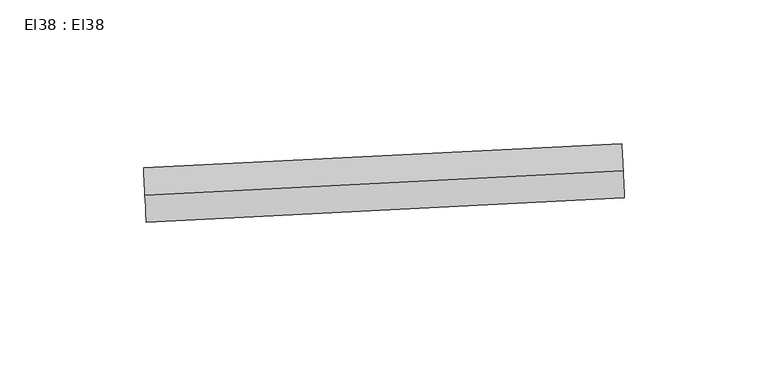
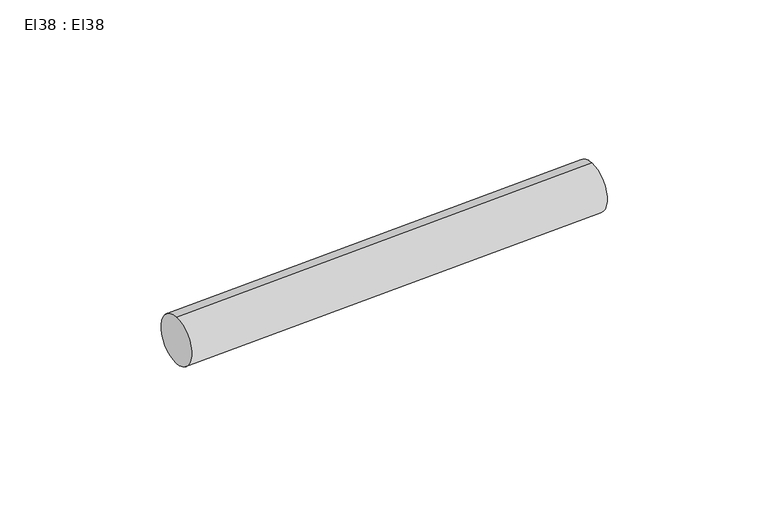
"""IFC4 building model written with IfcOpenShell, lengths in millimetres: cable carrier segment geometry, El38 : El38."""

import ifcopenshell
import ifcopenshell.guid

model = None  # the IFC model being written
_history = None  # IfcOwnerHistory: only IFC2X3 demands one
_inside = {}  # id of a spatial element -> (the spatial element, [elements in it])
_under = {}  # id of a project, library or spatial element -> (it, [spatial elements below it])
_declared = {}  # id of a project -> (the project, [libraries it declares])
_typed = {}  # id of a type object -> (the type object, [elements of that type])
_made_of = {}  # id of a material, layer set ... -> (it, [elements and type objects made of it])


def new_model(schema):
    """Start an empty IFC model of exactly this schema.

    Asked for "IFC4X3", IfcOpenShell would pick the latest addendum, in which some entities
    have other attributes; the version numbers below select the first issue.
    IFC2X3 requires an IfcOwnerHistory on every rooted entity: one is made here for all.
    """
    global model, _history
    if schema == "IFC4X3":
        model = ifcopenshell.file(schema_version=(4, 3, 0, 0))
    else:
        model = ifcopenshell.file(schema=schema)
    _inside.clear()
    _under.clear()
    _declared.clear()
    _typed.clear()
    _made_of.clear()
    _history = None
    if model.schema == "IFC2X3":
        org = make("IfcOrganization", Name="unknown")
        user = make(
            "IfcPersonAndOrganization",
            ThePerson=make("IfcPerson", FamilyName="unknown"),
            TheOrganization=org,
        )
        app = make(
            "IfcApplication",
            ApplicationDeveloper=org,
            Version="unknown",
            ApplicationFullName="unknown",
            ApplicationIdentifier="unknown",
        )
        _history = make(
            "IfcOwnerHistory",
            OwningUser=user,
            OwningApplication=app,
            ChangeAction="ADDED",
            CreationDate=0,
        )
    return model


def make(cls, **values):
    """One entity of the class cls with the attributes given. An attribute that is None is left unset."""
    return model.create_entity(
        cls, **{name: value for name, value in values.items() if value is not None}
    )


def rooted(cls, **values):
    """An entity with a GlobalId (a new one), such as an element, a storey or a relation."""
    return make(cls, GlobalId=ifcopenshell.guid.new(), OwnerHistory=_history, **values)


def si_unit(unit_type, name, prefix=None):
    """IfcSIUnit, for example si_unit("LENGTHUNIT", "METRE", prefix="MILLI")."""
    return make("IfcSIUnit", UnitType=unit_type, Prefix=prefix, Name=name)


def assignment(units):
    """IfcUnitAssignment: the units of a project."""
    return None if units is None else make("IfcUnitAssignment", Units=units)


def point(xyz):
    """IfcCartesianPoint."""
    return None if xyz is None else make("IfcCartesianPoint", Coordinates=xyz)


def direction(xyz):
    """IfcDirection."""
    return None if xyz is None else make("IfcDirection", DirectionRatios=xyz)


def frame(location, z_axis=None, x_axis=None):
    """IfcAxis2Placement3D, a coordinate frame: its origin and axes. An axis left out is left unset."""
    return make(
        "IfcAxis2Placement3D",
        Location=point(location),
        Axis=direction(z_axis),
        RefDirection=direction(x_axis),
    )


def frame_2d(location, x_axis=None):
    """IfcAxis2Placement2D, a coordinate frame in the plane: its origin and x axis."""
    return make(
        "IfcAxis2Placement2D", Location=point(location), RefDirection=direction(x_axis)
    )


def origin():
    """The frame at (0, 0, 0) with its axes left unset."""
    return frame((0.0, 0.0, 0.0))


def place(relative_to, where):
    """IfcLocalPlacement: puts the frame where relative to a parent placement (None: the world)."""
    return make(
        "IfcLocalPlacement", PlacementRelTo=relative_to, RelativePlacement=where
    )


def context(
    kind, dimensions, precision=None, world=None, true_north=None, identifier=None
):
    """IfcGeometricRepresentationContext, for example the 3D "Model" context."""
    return make(
        "IfcGeometricRepresentationContext",
        ContextIdentifier=identifier,
        ContextType=kind,
        CoordinateSpaceDimension=dimensions,
        Precision=precision,
        WorldCoordinateSystem=world,
        TrueNorth=true_north,
    )


def project(units=None, contexts=None):
    """IfcProject with its units and contexts."""
    return rooted(
        "IfcProject",
        Name="project",
        RepresentationContexts=contexts,
        UnitsInContext=assignment(units),
    )


def spatial(cls, under=None, at=None, **own):
    """A site, building, storey or space (cls), placed at a placement, below another one or the project."""
    s = rooted(cls, ObjectPlacement=at, **own)
    if under is not None:
        _under.setdefault(under.id(), (under, []))[1].append(s)
    return s


def circle_curve(where, radius):
    """IfcCircle in the frame where."""
    return make("IfcCircle", Position=where, Radius=radius)


def trimmed(basis, trim1, trim2, sense, master):
    """IfcTrimmedCurve: the piece of a basis curve between two trims."""
    return make(
        "IfcTrimmedCurve",
        BasisCurve=basis,
        Trim1=trim1,
        Trim2=trim2,
        SenseAgreement=sense,
        MasterRepresentation=master,
    )


def segment(curve, same_sense, transition):
    """IfcCompositeCurveSegment."""
    return make(
        "IfcCompositeCurveSegment",
        Transition=transition,
        SameSense=same_sense,
        ParentCurve=curve,
    )


def composite_curve(segments, self_intersect=None):
    """IfcCompositeCurve: segments joined end to end."""
    return make("IfcCompositeCurve", Segments=segments, SelfIntersect=self_intersect)


def outline(outer, holes=None, kind="AREA"):
    """IfcArbitraryClosedProfileDef: a profile drawn as a closed curve; with holes, ...WithVoids."""
    if holes is None:
        return make("IfcArbitraryClosedProfileDef", ProfileType=kind, OuterCurve=outer)
    return make(
        "IfcArbitraryProfileDefWithVoids",
        ProfileType=kind,
        OuterCurve=outer,
        InnerCurves=holes,
    )


def extrude(swept, where, along, depth):
    """IfcExtrudedAreaSolid: the profile swept, set in the frame where, extruded along a direction by depth."""
    return make(
        "IfcExtrudedAreaSolid",
        SweptArea=swept,
        Position=where,
        ExtrudedDirection=direction(along),
        Depth=depth,
    )


def shape(context_of_items, identifier, shape_type, items):
    """IfcShapeRepresentation: the items that make up one representation, for example the "Body"."""
    return make(
        "IfcShapeRepresentation",
        ContextOfItems=context_of_items,
        RepresentationIdentifier=identifier,
        RepresentationType=shape_type,
        Items=items,
    )


def source(mapping_origin, context_of_items, identifier, shape_type, items):
    """IfcRepresentationMap: a shape defined once, which mapped items show again and again."""
    return make(
        "IfcRepresentationMap",
        MappingOrigin=mapping_origin,
        MappedRepresentation=shape(context_of_items, identifier, shape_type, items),
    )


def transform(
    local_origin,
    x_axis=None,
    y_axis=None,
    z_axis=None,
    scale=None,
    scale2=None,
    scale3=None,
    uniform=True,
):
    """IfcCartesianTransformationOperator3D, or its non-uniform kind. x_axis, y_axis, z_axis: its Axis1, 2, 3."""
    if uniform:
        return make(
            "IfcCartesianTransformationOperator3D",
            Axis1=direction(x_axis),
            Axis2=direction(y_axis),
            LocalOrigin=point(local_origin),
            Scale=scale,
            Axis3=direction(z_axis),
        )
    return make(
        "IfcCartesianTransformationOperator3DnonUniform",
        Axis1=direction(x_axis),
        Axis2=direction(y_axis),
        LocalOrigin=point(local_origin),
        Scale=scale,
        Axis3=direction(z_axis),
        Scale2=scale2,
        Scale3=scale3,
    )


def mapped(mapping_source, mapping_target):
    """IfcMappedItem: shows the shape of a source again, moved by a transform."""
    return make(
        "IfcMappedItem", MappingSource=mapping_source, MappingTarget=mapping_target
    )


def made_of(thing, what):
    """Note that an element or type object is made of a material, layer set ...; save() writes the relation."""
    if what is not None:
        _made_of.setdefault(what.id(), (what, []))[1].append(thing)
    return thing


def element(
    cls,
    number,
    at=None,
    inside=None,
    cuts=None,
    type_object=None,
    material=None,
    context=None,
    identifier="Body",
    shape_type=None,
    held_by="IfcProductDefinitionShape",
    body=None,
    shapes=None,
    **own,
):
    """One element of the class cls, such as IfcWall. Its Tag is "e" and its number.

    at: its placement. inside: the storey or other place that contains it. cuts: it is an
    opening in that element (IfcRelVoidsElement). A single representation is given by context,
    identifier, shape_type and body (its items); several are given by shapes. held_by: the class
    of the entity that holds the representations. save() writes the other relations.
    """
    e = rooted(cls, Tag="e%d" % number, ObjectPlacement=at, **own)
    if body is not None:
        shapes = [shape(context, identifier, shape_type, body)]
    if shapes is not None:
        e.Representation = make(held_by, Representations=shapes)
    if inside is not None:
        _inside.setdefault(inside.id(), (inside, []))[1].append(e)
    if cuts is not None:
        rooted(
            "IfcRelVoidsElement", RelatingBuildingElement=cuts, RelatedOpeningElement=e
        )
    if type_object is not None:
        _typed.setdefault(type_object.id(), (type_object, []))[1].append(e)
    return made_of(e, material)


def aggregate(whole, parts):
    """IfcRelAggregates: a whole, such as a stair, and the parts it consists of."""
    return rooted("IfcRelAggregates", RelatingObject=whole, RelatedObjects=parts)


def save(model, path):
    """Write the relations noted so far, then the file.

    IfcRelAggregates (storeys below a building ...), IfcRelContainedInSpatialStructure (elements
    in a storey), IfcRelDefinesByType, IfcRelAssociatesMaterial and IfcRelDeclares: one each for
    every whole, place, type object, material and project.
    """
    for whole, parts in _under.values():
        aggregate(whole, parts)
    for where, things in _inside.values():
        rooted(
            "IfcRelContainedInSpatialStructure",
            RelatedElements=things,
            RelatingStructure=where,
        )
    for kind, things in _typed.values():
        rooted("IfcRelDefinesByType", RelatedObjects=things, RelatingType=kind)
    for what, things in _made_of.values():
        rooted("IfcRelAssociatesMaterial", RelatedObjects=things, RelatingMaterial=what)
    for by, libraries in _declared.values():
        rooted("IfcRelDeclares", RelatingContext=by, RelatedDefinitions=libraries)
    model.write(path)


def el38_el38_2bffc22e(model_context):
    return source(origin(), model_context, "Body", "SweptSolid", [
        extrude(outline(composite_curve([segment(trimmed(circle_curve(frame_2d((0.0, -9.5)), 9.5), [point((0.0, -19.0))], [point((0.0, 0.0))], False, "CARTESIAN"), True, "CONTINUOUS"), segment(trimmed(circle_curve(frame_2d((0.0, -9.5)), 9.5), [point((0.0, 0.0))], [point((0.0, -19.0))], False, "CARTESIAN"), True, "CONTINUOUS")], self_intersect=False)), frame((5338.1954, 15363.36894, 1209.5), z_axis=(0.9987114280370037, 0.050749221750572, 0.0), x_axis=(-0.050749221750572, 0.9987114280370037, 0.0)), (0.0, 0.0, 1.0), 166.744),
    ])


if __name__ == "__main__":
    model = new_model("IFC4")
    model_context = context("Model", 3, world=origin())
    ifc_project = project(units=[si_unit("LENGTHUNIT", "METRE", prefix="MILLI")], contexts=[model_context])
    site = spatial("IfcSite", under=ifc_project)
    building = spatial("IfcBuilding", under=site)
    placement = place(None, origin())
    el38_el38_shape = el38_el38_2bffc22e(model_context)
    element("IfcCableCarrierSegment", 1, ObjectType="El38 : El38", at=placement, inside=building, context=model_context, shape_type="MappedRepresentation", body=[
        mapped(el38_el38_shape, transform((0.0, 0.0, 0.0), x_axis=(1.0, 0.0, 0.0), y_axis=(0.0, 1.0, 0.0), z_axis=(0.0, 0.0, 1.0))),
    ])
    save(model, "model.ifc")
